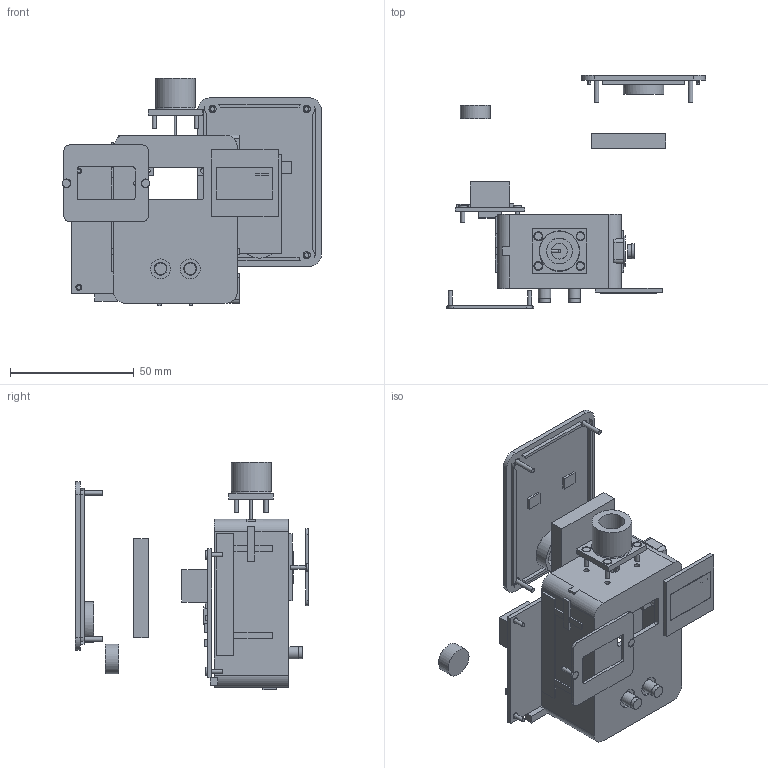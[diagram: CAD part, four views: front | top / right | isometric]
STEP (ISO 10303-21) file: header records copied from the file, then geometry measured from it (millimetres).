
FILE_DESCRIPTION(('Open CASCADE Model'),'2;1');
FILE_NAME('AETHER_WATCH_V1_EXPLODED','2026-10-06T17:21:02',('Author'),( 'Open CASCADE'),'Open CASCADE STEP processor 7.9','build123d', 'Unknown');
FILE_SCHEMA(('AUTOMOTIVE_DESIGN { 1 0 10303 214 1 1 1 1 }'));
Length unit declared in the file: millimetre
Products named in the file (41): AETHER_WATCH_V1_EXPLODED; main_front_housing; hollow_antenna_housing_placeholder; antenna_m2_screw_1; antenna_m2_screw_2; antenna_m2_screw_3; antenna_m2_screw_4; raised_oled_protective_bezel; bezel_m2_screw_1; bezel_m2_screw_2; oled_i2c_pcb_27x27; oled_active_area_23x13; oled_status_pixel_bar; green_system_led_5mm; red_alert_led_5mm; esp32c3_dev_board_pcb_28x52; esp32c3_radio_module_envelope; esp32c3_mcu_package; board_power_regulator_envelope; usb_c_receptacle_envelope; battery_input_header_envelope; boot_button_envelope; reset_button_envelope; esp_mount_m2_screw_1; esp_mount_m2_screw_2; esp_mount_m2_screw_3; esp_mount_m2_screw_4; lipo_3v7_30x40x6_envelope; 12mm_rear_buzzer_envelope; 6mm_sos_tactile_switch_envelope; sos_switch_actuator; red_sos_button_plunger; antenna_coax_placeholder; battery_positive_lead; battery_negative_lead; oled_signal_ribbon_placeholder; removable_rear_cover; rear_m2_5_screw_1; rear_m2_5_screw_2; rear_m2_5_screw_3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
Assembly tree (40 placements, depth 2):
  AETHER_WATCH_V1_EXPLODED
    main_front_housing
    hollow_antenna_housing_placeholder
    antenna_m2_screw_1
    antenna_m2_screw_2
    antenna_m2_screw_3
    antenna_m2_screw_4
    raised_oled_protective_bezel
    bezel_m2_screw_1
    bezel_m2_screw_2
    oled_i2c_pcb_27x27
    oled_active_area_23x13
    oled_status_pixel_bar
    green_system_led_5mm
    red_alert_led_5mm
    esp32c3_dev_board_pcb_28x52
    esp32c3_radio_module_envelope
    esp32c3_mcu_package
    board_power_regulator_envelope
    usb_c_receptacle_envelope
    battery_input_header_envelope
    boot_button_envelope
    reset_button_envelope
    esp_mount_m2_screw_1
    esp_mount_m2_screw_2
    esp_mount_m2_screw_3
    esp_mount_m2_screw_4
    lipo_3v7_30x40x6_envelope
    12mm_rear_buzzer_envelope
    6mm_sos_tactile_switch_envelope
    sos_switch_actuator
    red_sos_button_plunger
    antenna_coax_placeholder
    battery_positive_lead
    battery_negative_lead
    oled_signal_ribbon_placeholder
    removable_rear_cover
    rear_m2_5_screw_1
    rear_m2_5_screw_2
    rear_m2_5_screw_3
    rear_m2_5_screw_4
Bounding box: 104.6 x 94.2 x 92 mm (x, y, z)
Volume: 49839.1 mm3; surface area: 50425 mm2
Topology: 40 solids, 40 shells, 594 faces, 1408 edges, 908 vertices
Faces by surface type: plane 399, cylinder 178, revolution 16, cone 1
Full cylindrical faces by diameter (mm): 0.5 x12, 0.6 x3, 1.1 x3, 1.6 x6, 1.7 x4, 1.8 x10, 2 x7, 2.1 x8, 2.4 x8, 2.6 x1, 2.9 x4, 3.1 x4, 3.2 x3, 3.4 x4, 3.6 x8, 4.4 x2, 4.6 x2, 4.7 x2, 5 x6, 5.2 x2, 5.5 x1, 6 x1, 6.4 x1, 7 x1, 7.6 x1, 8 x2, 10.4 x1, 12 x1, 12.4 x1, 13 x1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
Entity records: 37012 total; most frequent: CARTESIAN_POINT 7513, DIRECTION 5211, LINE 2783, VECTOR 2783, ORIENTED_EDGE 2760, PCURVE 2760, DEFINITIONAL_REPRESENTATION 2760, EDGE_CURVE 1380
